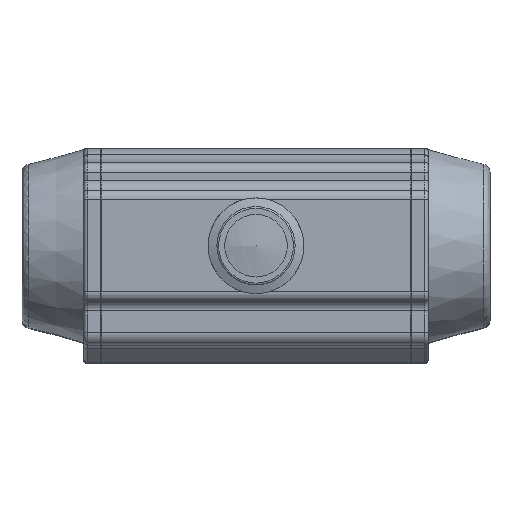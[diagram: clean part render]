
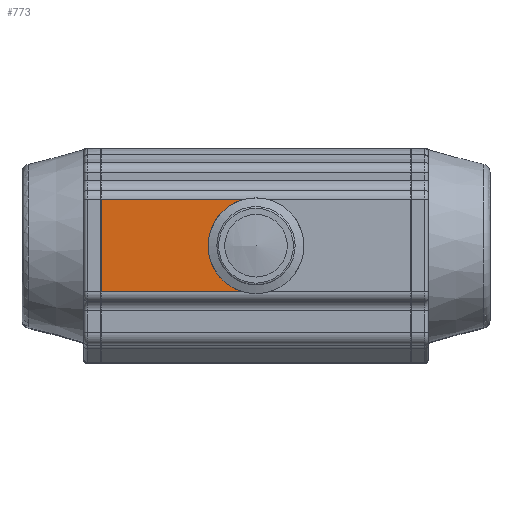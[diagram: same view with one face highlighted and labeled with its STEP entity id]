
A CAD part, top view. The second image highlights one B-rep face of the part: STEP entity #773.
In plain terms, the highlighted planar face has unit normal (0, 0, 1).
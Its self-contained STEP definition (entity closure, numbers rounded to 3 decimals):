
#773 = ADVANCED_FACE( '', ( #1958 ), #1959, .T. );
#1958 = FACE_OUTER_BOUND( '', #3845, .T. );
#1959 = PLANE( '', #3846 );
#3845 = EDGE_LOOP( '', ( #6830, #6831, #6832, #6833 ) );
#3846 = AXIS2_PLACEMENT_3D( '', #6834, #6835, #6836 );
#6830 = ORIENTED_EDGE( '', *, *, #11706, .T. );
#6831 = ORIENTED_EDGE( '', *, *, #11707, .T. );
#6832 = ORIENTED_EDGE( '', *, *, #11708, .F. );
#6833 = ORIENTED_EDGE( '', *, *, #11709, .F. );
#6834 = CARTESIAN_POINT( '', ( 89., -26.5, 64. ) );
#6835 = DIRECTION( '', ( 0., 0., 1. ) );
#6836 = DIRECTION( '', ( 1., 0., 0. ) );
#11706 = EDGE_CURVE( '', #13786, #13787, #13788, .T. );
#11707 = EDGE_CURVE( '', #13787, #13789, #13790, .T. );
#11708 = EDGE_CURVE( '', #13791, #13789, #13792, .T. );
#11709 = EDGE_CURVE( '', #13786, #13791, #13793, .T. );
#13786 = VERTEX_POINT( '', #17578 );
#13787 = VERTEX_POINT( '', #17579 );
#13788 = CIRCLE( '', #17580, 27.5 );
#13789 = VERTEX_POINT( '', #17581 );
#13790 = LINE( '', #17582, #17583 );
#13791 = VERTEX_POINT( '', #17584 );
#13792 = LINE( '', #17585, #17586 );
#13793 = LINE( '', #17587, #17588 );
#17578 = CARTESIAN_POINT( '', ( -7.348, -26.5, 64. ) );
#17579 = CARTESIAN_POINT( '', ( -7.348, 26.5, 64. ) );
#17580 = AXIS2_PLACEMENT_3D( '', #23282, #23283, #23284 );
#17581 = CARTESIAN_POINT( '', ( -89., 26.5, 64. ) );
#17582 = CARTESIAN_POINT( '', ( 89., 26.5, 64. ) );
#17583 = VECTOR( '', #23285, 1000. );
#17584 = CARTESIAN_POINT( '', ( -89., -26.5, 64. ) );
#17585 = CARTESIAN_POINT( '', ( -89., -26.5, 64. ) );
#17586 = VECTOR( '', #23286, 1000. );
#17587 = CARTESIAN_POINT( '', ( 89., -26.5, 64. ) );
#17588 = VECTOR( '', #23287, 1000. );
#23282 = CARTESIAN_POINT( '', ( 0., 0., 64. ) );
#23283 = DIRECTION( '', ( 0., 0., -1. ) );
#23284 = DIRECTION( '', ( -1., 0., 0. ) );
#23285 = DIRECTION( '', ( -1., 0., 0. ) );
#23286 = DIRECTION( '', ( 0., 1., 0. ) );
#23287 = DIRECTION( '', ( -1., 0., 0. ) );
